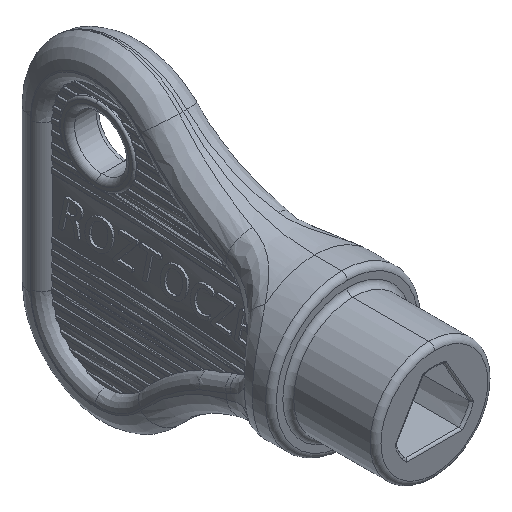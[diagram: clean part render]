
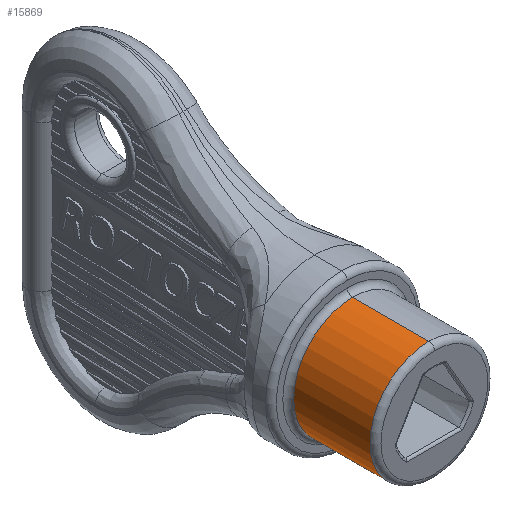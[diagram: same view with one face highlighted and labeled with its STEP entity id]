
A CAD part, isometric view. The second image highlights one B-rep face of the part: STEP entity #15869.
In plain terms, the highlighted cylindrical face has radius 5.4 mm (diameter 10.8 mm), a partial arc.
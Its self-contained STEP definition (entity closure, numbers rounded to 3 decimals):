
#644 = ORIENTED_EDGE ( 'NONE', *, *, #2893, .T. ) ;
#818 = EDGE_LOOP ( 'NONE', ( #7327, #644, #26100, #3012 ) ) ;
#1487 = VERTEX_POINT ( 'NONE', #20389 ) ;
#1887 = VECTOR ( 'NONE', #11024, 1000. ) ;
#1955 = CIRCLE ( 'NONE', #22982, 5.4 ) ;
#2586 = CARTESIAN_POINT ( 'NONE',  ( 0., 0.5, 0. ) ) ;
#2719 = DIRECTION ( 'NONE',  ( 0., -1., 0. ) ) ;
#2893 = EDGE_CURVE ( 'NONE', #14127, #21128, #14514, .T. ) ;
#2979 = FACE_OUTER_BOUND ( 'NONE', #818, .T. ) ;
#3012 = ORIENTED_EDGE ( 'NONE', *, *, #20889, .T. ) ;
#3104 = CYLINDRICAL_SURFACE ( 'NONE', #25727, 5.4 ) ;
#4264 = DIRECTION ( 'NONE',  ( 0., -1., 0. ) ) ;
#4885 = DIRECTION ( 'NONE',  ( 0., 1., 0. ) ) ;
#5157 = DIRECTION ( 'NONE',  ( 0., 0., -1. ) ) ;
#6205 = AXIS2_PLACEMENT_3D ( 'NONE', #2586, #16837, #25231 ) ;
#6220 = CARTESIAN_POINT ( 'NONE',  ( 0., 0.5, 5.4 ) ) ;
#6815 = DIRECTION ( 'NONE',  ( 0., 0., -1. ) ) ;
#7077 = CARTESIAN_POINT ( 'NONE',  ( 0., -6.5, 0. ) ) ;
#7327 = ORIENTED_EDGE ( 'NONE', *, *, #8850, .F. ) ;
#7878 = EDGE_CURVE ( 'NONE', #21128, #22798, #14668, .T. ) ;
#8422 = LINE ( 'NONE', #21196, #1887 ) ;
#8850 = EDGE_CURVE ( 'NONE', #14127, #1487, #8422, .T. ) ;
#11024 = DIRECTION ( 'NONE',  ( 0., -1., 0. ) ) ;
#13020 = CARTESIAN_POINT ( 'NONE',  ( 0., 1., -5.4 ) ) ;
#13228 = VECTOR ( 'NONE', #4264, 1000. ) ;
#14127 = VERTEX_POINT ( 'NONE', #6220 ) ;
#14514 = CIRCLE ( 'NONE', #6205, 5.4 ) ;
#14668 = LINE ( 'NONE', #13020, #13228 ) ;
#15869 = ADVANCED_FACE ( 'NONE', ( #2979 ), #3104, .T. ) ;
#16837 = DIRECTION ( 'NONE',  ( 0., -1., 0. ) ) ;
#17639 = CARTESIAN_POINT ( 'NONE',  ( 0., -6.5, -5.4 ) ) ;
#20389 = CARTESIAN_POINT ( 'NONE',  ( 0., -6.5, 5.4 ) ) ;
#20889 = EDGE_CURVE ( 'NONE', #22798, #1487, #1955, .T. ) ;
#21128 = VERTEX_POINT ( 'NONE', #26011 ) ;
#21196 = CARTESIAN_POINT ( 'NONE',  ( 0., 1., 5.4 ) ) ;
#21505 = CARTESIAN_POINT ( 'NONE',  ( 0., 1., 0. ) ) ;
#22798 = VERTEX_POINT ( 'NONE', #17639 ) ;
#22982 = AXIS2_PLACEMENT_3D ( 'NONE', #7077, #4885, #5157 ) ;
#25231 = DIRECTION ( 'NONE',  ( 0., 0., -1. ) ) ;
#25727 = AXIS2_PLACEMENT_3D ( 'NONE', #21505, #2719, #6815 ) ;
#26011 = CARTESIAN_POINT ( 'NONE',  ( 0., 0.5, -5.4 ) ) ;
#26100 = ORIENTED_EDGE ( 'NONE', *, *, #7878, .T. ) ;
